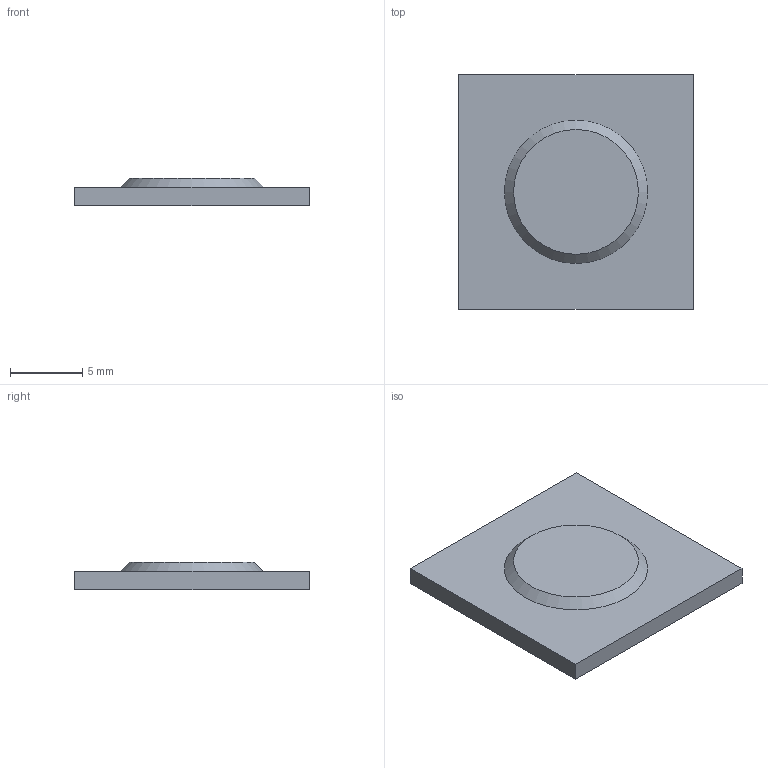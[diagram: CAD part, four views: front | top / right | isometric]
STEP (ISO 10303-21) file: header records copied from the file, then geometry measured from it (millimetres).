
FILE_DESCRIPTION((''),'1');
FILE_NAME('C:/Users/ericfrey/Desktop/TEK DIMPLE.stp', '2017-07-25T16:46:53',(''), (''), 'KCM Version 1.1.2016.0', 'Kubotek KeyCreator', '');
FILE_SCHEMA(('AUTOMOTIVE_DESIGN'));
Length unit declared in the file: inch
Bounding box: 16.31 x 16.29 x 1.91 mm (x, y, z)
Volume: 346.7 mm3; surface area: 628.8 mm2
Topology: 1 solids, 1 shells, 10 faces, 18 edges, 12 vertices
Faces by surface type: plane 8, cone 2
Entity records: 271 total; most frequent: DIRECTION 44, CARTESIAN_POINT 41, ORIENTED_EDGE 36, EDGE_CURVE 18, AXIS2_PLACEMENT_3D 15, VECTOR 14, LINE 14, VERTEX_POINT 12
